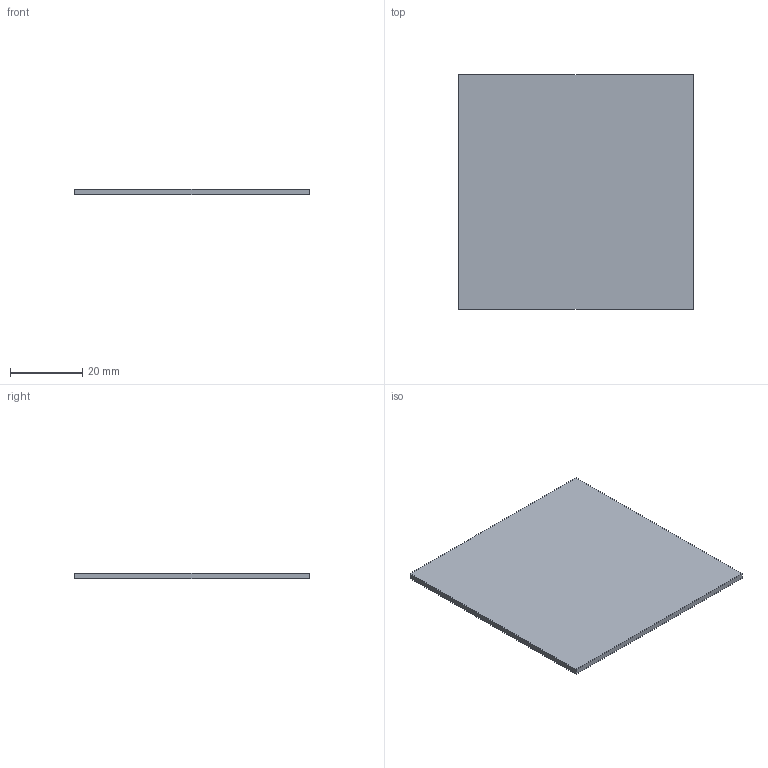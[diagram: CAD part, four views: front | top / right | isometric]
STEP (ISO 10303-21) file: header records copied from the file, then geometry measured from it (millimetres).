
FILE_DESCRIPTION(('Open CASCADE Model'),'2;1');
FILE_NAME('Open CASCADE Shape Model','2026-09-20T16:03:31',('Author'),( 'Open CASCADE'),'Open CASCADE STEP processor 8.0','Open CASCADE 8.0' ,'Unknown');
FILE_SCHEMA(('AP242_MANAGED_MODEL_BASED_3D_ENGINEERING_MIM_LF {1 0 10303 442 1 1 4 }' ));
Length unit declared in the file: millimetre
Products named in the file (1): Open CASCADE STEP translator 8.0 19
Bounding box: 65 x 65 x 1.6 mm (x, y, z)
Volume: 6760 mm3; surface area: 8866 mm2
Topology: 1 solids, 1 shells, 6 faces, 12 edges, 8 vertices
Faces by surface type: plane 6
Entity records: 322 total; most frequent: CARTESIAN_POINT 51, DIRECTION 50, LINE 36, VECTOR 36, ORIENTED_EDGE 24, PCURVE 24, DEFINITIONAL_REPRESENTATION 24, EDGE_CURVE 12
